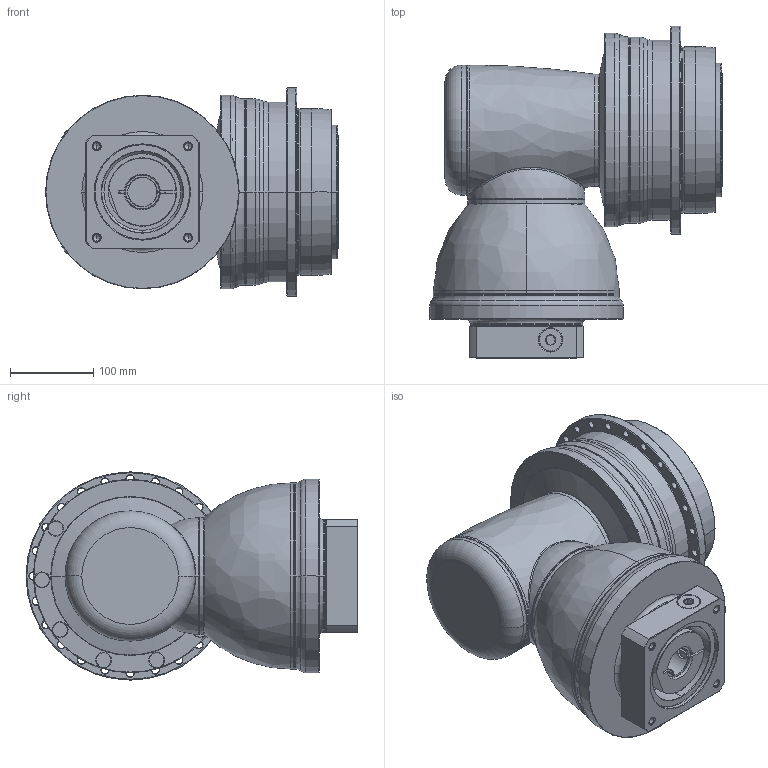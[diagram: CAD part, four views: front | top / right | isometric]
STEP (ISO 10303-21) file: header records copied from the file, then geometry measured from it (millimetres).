
FILE_DESCRIPTION((''),'2;1');
FILE_NAME('APK200_2ST_SBG_35-P0409800201_ASM','2018-10-30T',('d01226'),(''),'PRO/ENGINEER BY PARAMETRIC TECHNOLOGY CORPORATION, 2015240','PRO/ENGINEER BY PARAMETRIC TECHNOLOGY CORPORATION, 2015240','');
FILE_SCHEMA(('CONFIG_CONTROL_DESIGN'));
Length unit declared in the file: millimetre
Products named in the file (13): P0278601003; P0359601103; P1211600001; P1802610001; P1018600002; P1365600001; P1007601001; P1318610101; P0503800012; P0912601001; P0409800201; 21711422019; APK200_2ST_SBG_35-P0409800201_ASM
Assembly tree (12 placements, depth 2):
  APK200_2ST_SBG_35-P0409800201_ASM
    P0278601003
    P0359601103
    P1211600001
    P1802610001
    P1018600002
    P1365600001
    P1007601001
    P1318610101
    P0503800012
    P0912601001
    P0409800201
    21711422019
Bounding box: 351 x 397.75 x 249.5 mm (x, y, z)
Volume: 14586424 mm3; surface area: 1033186.6 mm2
Topology: 13 solids, 38 shells, 870 faces, 2027 edges, 1229 vertices
Faces by surface type: cylinder 358, cone 240, plane 154, torus 90, bspline 26, sphere 2
Entity records: 30974 total; most frequent: CARTESIAN_POINT 10346, DIRECTION 4777, ORIENTED_EDGE 3864, AXIS2_PLACEMENT_3D 2056, EDGE_CURVE 1983, VERTEX_POINT 1229, CIRCLE 1177, EDGE_LOOP 1024
